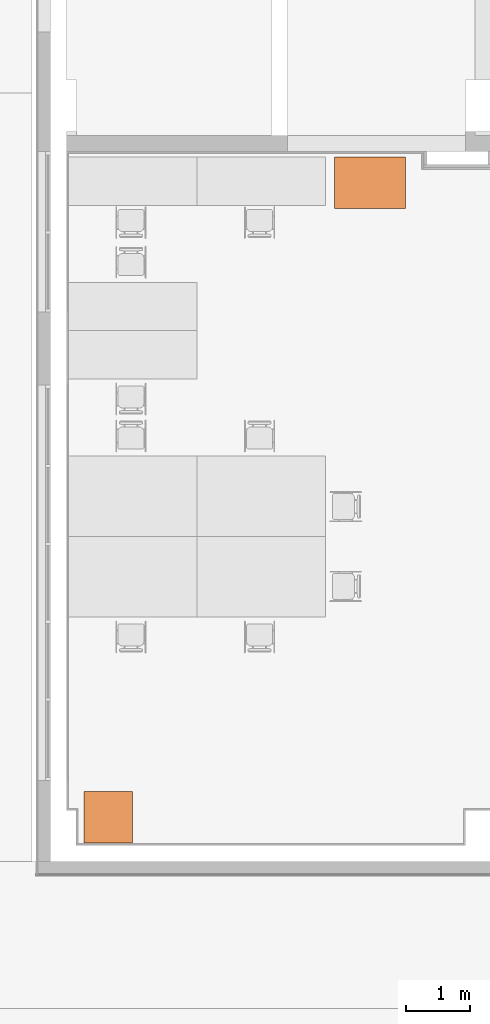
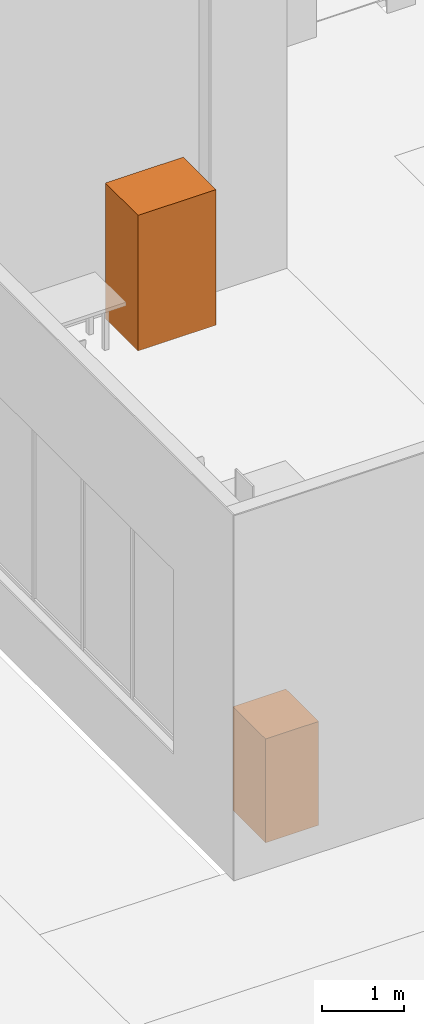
# One storey, part 27 of 27: 2 proxies.
"""IFC2X3 building model written with IfcOpenShell, lengths in centimetres."""

from ifc_helpers import new_model, entity, si_unit, converted_unit, derived_unit, direction, frame, frame_2d, origin, place, context, subcontext, project, spatial, rectangle, extrude, source, transform, mapped, material, type_object, type_shapes, element, save


model = new_model("IFC2X3")

# Units and contexts
model_context = context("Model", 3, precision=0.001, world=origin(), true_north=direction((6.12303176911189e-17, 1.0)))
body_context = subcontext(model_context, "Body", "Model", "MODEL_VIEW")
ifc_project = project(units=[si_unit("LENGTHUNIT", "METRE", prefix="CENTI"), si_unit("AREAUNIT", "SQUARE_METRE"), si_unit("VOLUMEUNIT", "CUBIC_METRE"), converted_unit("PLANEANGLEUNIT", "DEGREE", entity("IfcRatioMeasure", 0.0174532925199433), si_unit("PLANEANGLEUNIT", "RADIAN"), dimensions=[0, 0, 0, 0, 0, 0, 0]), si_unit("MASSUNIT", "GRAM", prefix="KILO"), derived_unit("MASSDENSITYUNIT", [(si_unit("MASSUNIT", "GRAM", prefix="KILO"), 1), (si_unit("LENGTHUNIT", "METRE"), -3)]), derived_unit("MOMENTOFINERTIAUNIT", [(si_unit("LENGTHUNIT", "METRE"), 4)]), si_unit("TIMEUNIT", "SECOND"), si_unit("FREQUENCYUNIT", "HERTZ"), si_unit("THERMODYNAMICTEMPERATUREUNIT", "DEGREE_CELSIUS"), derived_unit("THERMALTRANSMITTANCEUNIT", [(si_unit("MASSUNIT", "GRAM", prefix="KILO"), 1), (si_unit("THERMODYNAMICTEMPERATUREUNIT", "KELVIN"), -1), (si_unit("TIMEUNIT", "SECOND"), -3)]), derived_unit("VOLUMETRICFLOWRATEUNIT", [(si_unit("LENGTHUNIT", "METRE"), 3), (si_unit("TIMEUNIT", "SECOND"), -1)]), si_unit("ELECTRICCURRENTUNIT", "AMPERE"), si_unit("ELECTRICVOLTAGEUNIT", "VOLT"), si_unit("POWERUNIT", "WATT"), si_unit("FORCEUNIT", "NEWTON", prefix="KILO"), si_unit("ILLUMINANCEUNIT", "LUX"), si_unit("LUMINOUSFLUXUNIT", "LUMEN"), si_unit("LUMINOUSINTENSITYUNIT", "CANDELA"), derived_unit("USERDEFINED", [(si_unit("MASSUNIT", "GRAM", prefix="KILO"), -1), (si_unit("LENGTHUNIT", "METRE"), -2), (si_unit("TIMEUNIT", "SECOND"), 3), (si_unit("LUMINOUSFLUXUNIT", "LUMEN"), 1)]), derived_unit("LINEARVELOCITYUNIT", [(si_unit("LENGTHUNIT", "METRE"), 1), (si_unit("TIMEUNIT", "SECOND"), -1)]), si_unit("PRESSUREUNIT", "PASCAL"), derived_unit("USERDEFINED", [(si_unit("LENGTHUNIT", "METRE"), -2), (si_unit("MASSUNIT", "GRAM", prefix="KILO"), 1), (si_unit("TIMEUNIT", "SECOND"), -2)]), derived_unit("LINEARFORCEUNIT", [(si_unit("MASSUNIT", "GRAM", prefix="KILO"), 1), (si_unit("LENGTHUNIT", "METRE"), 1), (si_unit("TIMEUNIT", "SECOND"), -2), (si_unit("LENGTHUNIT", "METRE"), -1)]), derived_unit("PLANARFORCEUNIT", [(si_unit("MASSUNIT", "GRAM", prefix="KILO"), 1), (si_unit("LENGTHUNIT", "METRE"), 1), (si_unit("TIMEUNIT", "SECOND"), -2), (si_unit("LENGTHUNIT", "METRE"), -2)])], contexts=[model_context])

# Site, building, storey
site_placement = place(None, origin())
site = spatial("IfcSite", under=ifc_project, at=site_placement, Name="Default", CompositionType="ELEMENT")
building_placement = place(site_placement, origin())
building = spatial("IfcBuilding", under=site, at=building_placement, CompositionType="ELEMENT")
storey_placement = place(building_placement, origin())
storey = spatial("IfcBuildingStorey", under=building, at=storey_placement, Name="Poziom 0 A +/-0,00", CompositionType="ELEMENT", Elevation=3.38570427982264e-11)

# Proxies
ifc_material = material(Name="Urządzenia")
building_element_proxy_type_1 = type_object("IfcBuildingElementProxyType", Name="Dłutownica do metalu:Dłutownica do metalu", PredefinedType="NOTDEFINED", material=ifc_material)
shared_shape_1 = source(origin(), body_context, "Body", "SweptSolid", [
    extrude(rectangle(XDim=75.0000000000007, YDim=79.9999999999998, at=frame_2d((2.16715534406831e-13, 0.0), x_axis=(1.0, 0.0))), frame((-2844.43023345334, 324.203160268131, 0.0), z_axis=(0.0, 0.0, 1.0), x_axis=(-1.0, 0.0, 0.0)), (0.0, 0.0, 1.0), 155.0),
])
type_shapes(building_element_proxy_type_1, [shared_shape_1])
proxy_1_placement = place(storey_placement, origin())
element("IfcBuildingElementProxy", 1, at=proxy_1_placement, inside=storey, type_object=building_element_proxy_type_1, material=ifc_material, Name="Dłutownica do metalu:Dłutownica do metalu", ObjectType="Dłutownica do metalu:Dłutownica do metalu", context=body_context, shape_type="MappedRepresentation", body=[
    mapped(shared_shape_1, transform((0.0, 0.0, 0.0), scale=1.0)),
])
building_element_proxy_type_2 = type_object("IfcBuildingElementProxyType", Name="Prasa hydrauliczna:Prasa hydrauliczna", PredefinedType="NOTDEFINED", material=ifc_material)
shared_shape_2 = source(origin(), body_context, "Body", "SweptSolid", [
    extrude(rectangle(XDim=110.000000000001, YDim=79.9999999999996, at=frame_2d((2.16715534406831e-13, 0.0), x_axis=(1.0, 0.0))), frame((-2437.61546729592, 1310.52745178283, 0.0), z_axis=(0.0, 0.0, 1.0), x_axis=(-1.0, 0.0, 0.0)), (0.0, 0.0, 1.0), 202.5),
])
type_shapes(building_element_proxy_type_2, [shared_shape_2])
proxy_2_placement = place(storey_placement, origin())
element("IfcBuildingElementProxy", 2, at=proxy_2_placement, inside=storey, type_object=building_element_proxy_type_2, material=ifc_material, Name="Prasa hydrauliczna:Prasa hydrauliczna", ObjectType="Prasa hydrauliczna:Prasa hydrauliczna", context=body_context, shape_type="MappedRepresentation", body=[
    mapped(shared_shape_2, transform((0.0, 0.0, 0.0), scale=1.0)),
])

save(model, "model.ifc")
